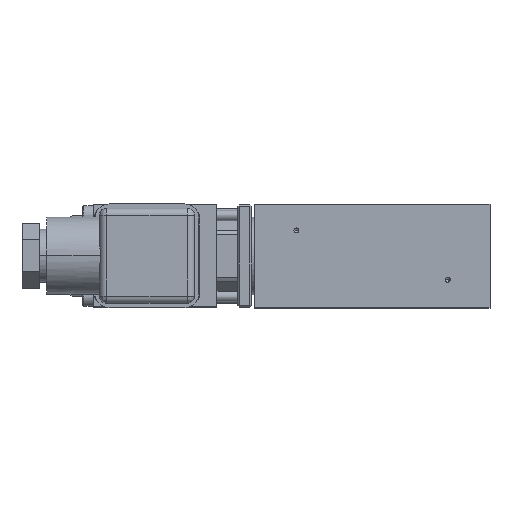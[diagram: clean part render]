
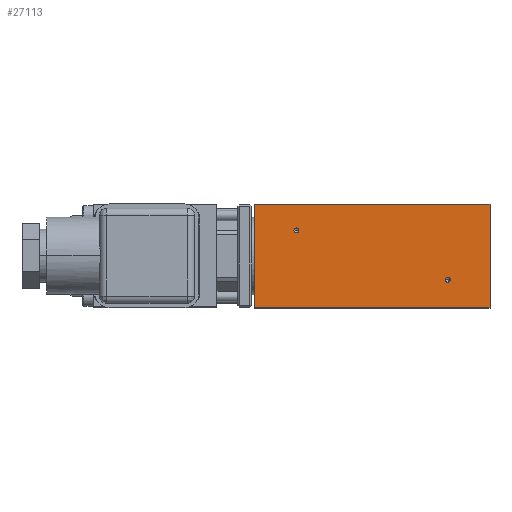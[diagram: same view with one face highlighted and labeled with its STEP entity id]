
A CAD part, top view. The second image highlights one B-rep face of the part: STEP entity #27113.
In plain terms, the highlighted planar face has unit normal (0, 0, 1).
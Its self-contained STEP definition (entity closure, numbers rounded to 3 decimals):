
#689 = LINE ( 'NONE', #10847, #13479 ) ;
#1176 = CARTESIAN_POINT ( 'NONE',  ( 0., 14.75, 15. ) ) ;
#1534 = CARTESIAN_POINT ( 'NONE',  ( 55., -6.75, 15. ) ) ;
#1729 = AXIS2_PLACEMENT_3D ( 'NONE', #1534, #18241, #3919 ) ;
#2267 = CARTESIAN_POINT ( 'NONE',  ( 11.3, 7.25, 15. ) ) ;
#3172 = ORIENTED_EDGE ( 'NONE', *, *, #13579, .T. ) ;
#3919 = DIRECTION ( 'NONE',  ( 1., 0., 0. ) ) ;
#4039 = EDGE_LOOP ( 'NONE', ( #6891, #12038 ) ) ;
#4490 = VECTOR ( 'NONE', #5401, 1000. ) ;
#5284 = VERTEX_POINT ( 'NONE', #5406 ) ;
#5401 = DIRECTION ( 'NONE',  ( 0., -1., 0. ) ) ;
#5406 = CARTESIAN_POINT ( 'NONE',  ( 55.7, -6.75, 15. ) ) ;
#5965 = EDGE_CURVE ( 'NONE', #12990, #5284, #19193, .T. ) ;
#6798 = EDGE_LOOP ( 'NONE', ( #17713, #8131 ) ) ;
#6891 = ORIENTED_EDGE ( 'NONE', *, *, #25189, .F. ) ;
#6997 = VERTEX_POINT ( 'NONE', #17493 ) ;
#7081 = DIRECTION ( 'NONE',  ( 0., 0., -1. ) ) ;
#8131 = ORIENTED_EDGE ( 'NONE', *, *, #5965, .F. ) ;
#9108 = VERTEX_POINT ( 'NONE', #2267 ) ;
#9234 = CIRCLE ( 'NONE', #23818, 0.7 ) ;
#9263 = CARTESIAN_POINT ( 'NONE',  ( 55., -6.75, 15. ) ) ;
#9426 = CARTESIAN_POINT ( 'NONE',  ( 12., 7.25, 15. ) ) ;
#9472 = AXIS2_PLACEMENT_3D ( 'NONE', #21379, #7081, #23845 ) ;
#9512 = CARTESIAN_POINT ( 'NONE',  ( 67., -14.75, 15. ) ) ;
#10596 = EDGE_CURVE ( 'NONE', #19094, #17528, #689, .T. ) ;
#10847 = CARTESIAN_POINT ( 'NONE',  ( 67., 14.75, 15. ) ) ;
#10890 = LINE ( 'NONE', #14963, #4490 ) ;
#11328 = DIRECTION ( 'NONE',  ( 0., -1., 0. ) ) ;
#11673 = DIRECTION ( 'NONE',  ( 1., 0., 0. ) ) ;
#11825 = DIRECTION ( 'NONE',  ( 1., 0., 0. ) ) ;
#11904 = DIRECTION ( 'NONE',  ( -1., 0., 0. ) ) ;
#11976 = EDGE_CURVE ( 'NONE', #9108, #29876, #23030, .T. ) ;
#12038 = ORIENTED_EDGE ( 'NONE', *, *, #11976, .F. ) ;
#12192 = DIRECTION ( 'NONE',  ( 0., 0., 1. ) ) ;
#12990 = VERTEX_POINT ( 'NONE', #27030 ) ;
#13479 = VECTOR ( 'NONE', #27542, 1000. ) ;
#13579 = EDGE_CURVE ( 'NONE', #17528, #20183, #10890, .T. ) ;
#13737 = EDGE_LOOP ( 'NONE', ( #3172, #25562, #20705, #29536 ) ) ;
#14963 = CARTESIAN_POINT ( 'NONE',  ( 0., -14.75, 15. ) ) ;
#15254 = AXIS2_PLACEMENT_3D ( 'NONE', #9263, #26106, #11673 ) ;
#16501 = PLANE ( 'NONE',  #9472 ) ;
#17493 = CARTESIAN_POINT ( 'NONE',  ( 67., -14.75, 15. ) ) ;
#17528 = VERTEX_POINT ( 'NONE', #1176 ) ;
#17713 = ORIENTED_EDGE ( 'NONE', *, *, #29469, .F. ) ;
#17902 = LINE ( 'NONE', #23250, #23542 ) ;
#18183 = FACE_BOUND ( 'NONE', #6798, .T. ) ;
#18241 = DIRECTION ( 'NONE',  ( 0., 0., 1. ) ) ;
#19094 = VERTEX_POINT ( 'NONE', #23980 ) ;
#19193 = CIRCLE ( 'NONE', #1729, 0.7 ) ;
#20183 = VERTEX_POINT ( 'NONE', #26682 ) ;
#20705 = ORIENTED_EDGE ( 'NONE', *, *, #29917, .F. ) ;
#21379 = CARTESIAN_POINT ( 'NONE',  ( 67., -14.75, 15. ) ) ;
#23030 = CIRCLE ( 'NONE', #28769, 0.7 ) ;
#23250 = CARTESIAN_POINT ( 'NONE',  ( 67., -14.75, 15. ) ) ;
#23542 = VECTOR ( 'NONE', #11328, 1000. ) ;
#23818 = AXIS2_PLACEMENT_3D ( 'NONE', #9426, #26268, #11825 ) ;
#23826 = VECTOR ( 'NONE', #11904, 1000. ) ;
#23845 = DIRECTION ( 'NONE',  ( -1., 0., 0. ) ) ;
#23980 = CARTESIAN_POINT ( 'NONE',  ( 67., 14.75, 15. ) ) ;
#24617 = LINE ( 'NONE', #9512, #23826 ) ;
#24650 = FACE_OUTER_BOUND ( 'NONE', #13737, .T. ) ;
#25189 = EDGE_CURVE ( 'NONE', #29876, #9108, #9234, .T. ) ;
#25562 = ORIENTED_EDGE ( 'NONE', *, *, #30595, .F. ) ;
#26106 = DIRECTION ( 'NONE',  ( 0., 0., 1. ) ) ;
#26268 = DIRECTION ( 'NONE',  ( 0., 0., 1. ) ) ;
#26634 = CARTESIAN_POINT ( 'NONE',  ( 12., 7.25, 15. ) ) ;
#26682 = CARTESIAN_POINT ( 'NONE',  ( 0., -14.75, 15. ) ) ;
#27030 = CARTESIAN_POINT ( 'NONE',  ( 54.3, -6.75, 15. ) ) ;
#27078 = CIRCLE ( 'NONE', #15254, 0.7 ) ;
#27113 = ADVANCED_FACE ( 'NONE', ( #31034, #18183, #24650 ), #16501, .F. ) ;
#27542 = DIRECTION ( 'NONE',  ( -1., 0., 0. ) ) ;
#27952 = CARTESIAN_POINT ( 'NONE',  ( 12.7, 7.25, 15. ) ) ;
#28769 = AXIS2_PLACEMENT_3D ( 'NONE', #26634, #12192, #29050 ) ;
#29050 = DIRECTION ( 'NONE',  ( 1., 0., 0. ) ) ;
#29469 = EDGE_CURVE ( 'NONE', #5284, #12990, #27078, .T. ) ;
#29536 = ORIENTED_EDGE ( 'NONE', *, *, #10596, .T. ) ;
#29876 = VERTEX_POINT ( 'NONE', #27952 ) ;
#29917 = EDGE_CURVE ( 'NONE', #19094, #6997, #17902, .T. ) ;
#30595 = EDGE_CURVE ( 'NONE', #6997, #20183, #24617, .T. ) ;
#31034 = FACE_BOUND ( 'NONE', #4039, .T. ) ;
